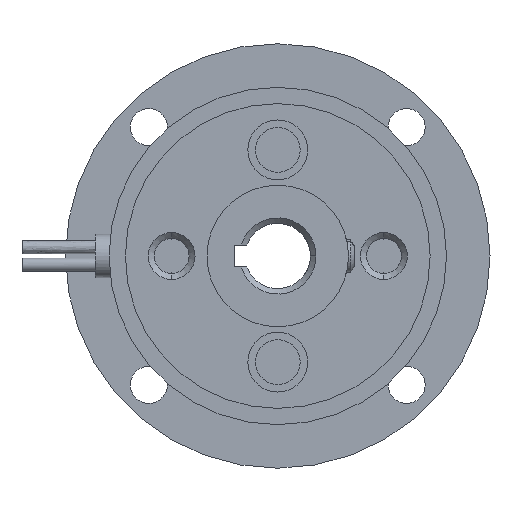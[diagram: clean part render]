
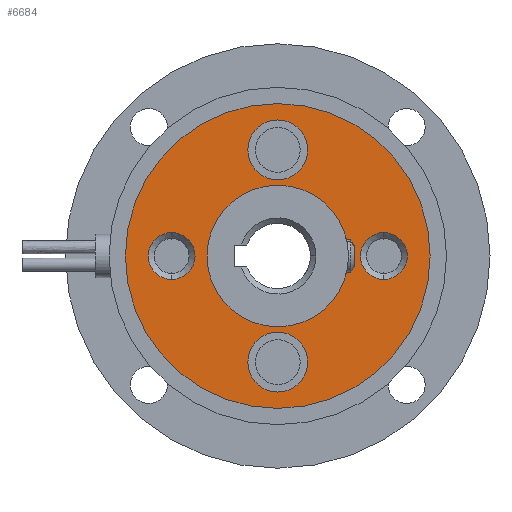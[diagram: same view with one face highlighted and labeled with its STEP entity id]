
A CAD part, left-side view. The second image highlights one B-rep face of the part: STEP entity #6684.
In plain terms, the highlighted planar face has unit normal (-1, 0, 0) as drawn and (0, 0, 1) by its records, which use the part's own axes.
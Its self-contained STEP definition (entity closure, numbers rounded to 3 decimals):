
#5675=CARTESIAN_POINT('',(-14.,0.,2.0));
#5676=VERTEX_POINT('',#5675);
#5692=CARTESIAN_POINT('',(14.,0.,2.0));
#5693=VERTEX_POINT('',#5692);
#5700=CARTESIAN_POINT('',(0.0,0.0,2.0));
#5701=DIRECTION('',(0.0,0.0,-1.0));
#5702=DIRECTION('',(-1.0,0.0,0.0));
#5703=AXIS2_PLACEMENT_3D('',#5700,#5701,#5702);
#5704=CIRCLE('',#5703,14.);
#5705=EDGE_CURVE('',#5693,#5676,#5704,.T.);
#5795=CARTESIAN_POINT('',(-6.5,0.,2.0));
#5796=VERTEX_POINT('',#5795);
#5805=CARTESIAN_POINT('',(6.5,0.,2.0));
#5806=VERTEX_POINT('',#5805);
#5807=CARTESIAN_POINT('',(0.0,0.0,2.0));
#5808=DIRECTION('',(0.0,0.0,-1.0));
#5809=DIRECTION('',(-1.0,0.0,0.0));
#5810=AXIS2_PLACEMENT_3D('',#5807,#5808,#5809);
#5811=CIRCLE('',#5810,6.5);
#5812=EDGE_CURVE('',#5806,#5796,#5811,.T.);
#5917=CARTESIAN_POINT('',(9.75,-2.15,2.0));
#5918=VERTEX_POINT('',#5917);
#5932=CARTESIAN_POINT('',(9.75,2.15,2.0));
#5933=VERTEX_POINT('',#5932);
#5940=CARTESIAN_POINT('',(9.75,0.,2.0));
#5941=DIRECTION('',(0.0,0.0,1.0));
#5942=DIRECTION('',(0.0,-1.0,0.0));
#5943=AXIS2_PLACEMENT_3D('',#5940,#5941,#5942);
#5944=CIRCLE('',#5943,2.15);
#5945=EDGE_CURVE('',#5933,#5918,#5944,.T.);
#5997=CARTESIAN_POINT('',(-9.75,2.15,2.0));
#5998=VERTEX_POINT('',#5997);
#6012=CARTESIAN_POINT('',(-9.75,-2.15,2.0));
#6013=VERTEX_POINT('',#6012);
#6020=CARTESIAN_POINT('',(-9.75,0.,2.0));
#6021=DIRECTION('',(0.0,0.0,1.0));
#6022=DIRECTION('',(0.0,1.0,0.0));
#6023=AXIS2_PLACEMENT_3D('',#6020,#6021,#6022);
#6024=CIRCLE('',#6023,2.15);
#6025=EDGE_CURVE('',#6013,#5998,#6024,.T.);
#6037=CARTESIAN_POINT('',(-2.75,-9.75,2.0));
#6038=VERTEX_POINT('',#6037);
#6054=CARTESIAN_POINT('',(2.75,-9.75,2.0));
#6055=VERTEX_POINT('',#6054);
#6062=CARTESIAN_POINT('',(0.,-9.75,2.0));
#6063=DIRECTION('',(0.0,0.0,-1.0));
#6064=DIRECTION('',(-1.0,0.0,0.0));
#6065=AXIS2_PLACEMENT_3D('',#6062,#6063,#6064);
#6066=CIRCLE('',#6065,2.75);
#6067=EDGE_CURVE('',#6038,#6055,#6066,.T.);
#6079=CARTESIAN_POINT('',(2.75,9.75,2.0));
#6080=VERTEX_POINT('',#6079);
#6096=CARTESIAN_POINT('',(-2.75,9.75,2.0));
#6097=VERTEX_POINT('',#6096);
#6104=CARTESIAN_POINT('',(0.,9.75,2.0));
#6105=DIRECTION('',(0.0,0.0,-1.0));
#6106=DIRECTION('',(1.0,0.0,0.0));
#6107=AXIS2_PLACEMENT_3D('',#6104,#6105,#6106);
#6108=CIRCLE('',#6107,2.75);
#6109=EDGE_CURVE('',#6080,#6097,#6108,.T.);
#6589=CARTESIAN_POINT('',(0.,9.75,2.0));
#6590=DIRECTION('',(0.0,0.0,-1.0));
#6591=DIRECTION('',(1.0,0.0,0.0));
#6592=AXIS2_PLACEMENT_3D('',#6589,#6590,#6591);
#6593=CIRCLE('',#6592,2.75);
#6594=EDGE_CURVE('',#6097,#6080,#6593,.T.);
#6607=CARTESIAN_POINT('',(0.,-9.75,2.0));
#6608=DIRECTION('',(0.0,0.0,-1.0));
#6609=DIRECTION('',(-1.0,0.0,0.0));
#6610=AXIS2_PLACEMENT_3D('',#6607,#6608,#6609);
#6611=CIRCLE('',#6610,2.75);
#6612=EDGE_CURVE('',#6055,#6038,#6611,.T.);
#6625=CARTESIAN_POINT('',(-9.75,0.,2.0));
#6626=DIRECTION('',(0.0,0.0,1.0));
#6627=DIRECTION('',(0.0,1.0,0.0));
#6628=AXIS2_PLACEMENT_3D('',#6625,#6626,#6627);
#6629=CIRCLE('',#6628,2.15);
#6630=EDGE_CURVE('',#5998,#6013,#6629,.T.);
#6637=CARTESIAN_POINT('',(0.0,0.0,2.0));
#6638=DIRECTION('',(0.0,0.0,-1.0));
#6639=DIRECTION('',(-1.0,0.0,0.0));
#6640=AXIS2_PLACEMENT_3D('',#6637,#6638,#6639);
#6641=PLANE('',#6640);
#6642=ORIENTED_EDGE('',*,*,#5705,.F.);
#6643=CARTESIAN_POINT('',(0.0,0.0,2.0));
#6644=DIRECTION('',(0.0,0.0,-1.0));
#6645=DIRECTION('',(-1.0,0.0,0.0));
#6646=AXIS2_PLACEMENT_3D('',#6643,#6644,#6645);
#6647=CIRCLE('',#6646,14.);
#6648=EDGE_CURVE('',#5676,#5693,#6647,.T.);
#6649=ORIENTED_EDGE('',*,*,#6648,.F.);
#6650=EDGE_LOOP('',(#6642,#6649));
#6651=FACE_OUTER_BOUND('',#6650,.T.);
#6652=ORIENTED_EDGE('',*,*,#6594,.T.);
#6653=ORIENTED_EDGE('',*,*,#6109,.T.);
#6654=EDGE_LOOP('',(#6652,#6653));
#6655=FACE_BOUND('',#6654,.T.);
#6656=ORIENTED_EDGE('',*,*,#6612,.T.);
#6657=ORIENTED_EDGE('',*,*,#6067,.T.);
#6658=EDGE_LOOP('',(#6656,#6657));
#6659=FACE_BOUND('',#6658,.T.);
#6660=ORIENTED_EDGE('',*,*,#5945,.F.);
#6661=CARTESIAN_POINT('',(9.75,0.,2.0));
#6662=DIRECTION('',(0.0,0.0,1.0));
#6663=DIRECTION('',(0.0,-1.0,0.0));
#6664=AXIS2_PLACEMENT_3D('',#6661,#6662,#6663);
#6665=CIRCLE('',#6664,2.15);
#6666=EDGE_CURVE('',#5918,#5933,#6665,.T.);
#6667=ORIENTED_EDGE('',*,*,#6666,.F.);
#6668=EDGE_LOOP('',(#6660,#6667));
#6669=FACE_BOUND('',#6668,.T.);
#6670=ORIENTED_EDGE('',*,*,#5812,.T.);
#6671=CARTESIAN_POINT('',(0.0,0.0,2.0));
#6672=DIRECTION('',(0.0,0.0,-1.0));
#6673=DIRECTION('',(-1.0,0.0,0.0));
#6674=AXIS2_PLACEMENT_3D('',#6671,#6672,#6673);
#6675=CIRCLE('',#6674,6.5);
#6676=EDGE_CURVE('',#5796,#5806,#6675,.T.);
#6677=ORIENTED_EDGE('',*,*,#6676,.T.);
#6678=EDGE_LOOP('',(#6670,#6677));
#6679=FACE_BOUND('',#6678,.T.);
#6680=ORIENTED_EDGE('',*,*,#6025,.F.);
#6681=ORIENTED_EDGE('',*,*,#6630,.F.);
#6682=EDGE_LOOP('',(#6680,#6681));
#6683=FACE_BOUND('',#6682,.T.);
#6684=ADVANCED_FACE('',(#6651,#6655,#6659,#6669,#6679,#6683),#6641,.F.);
